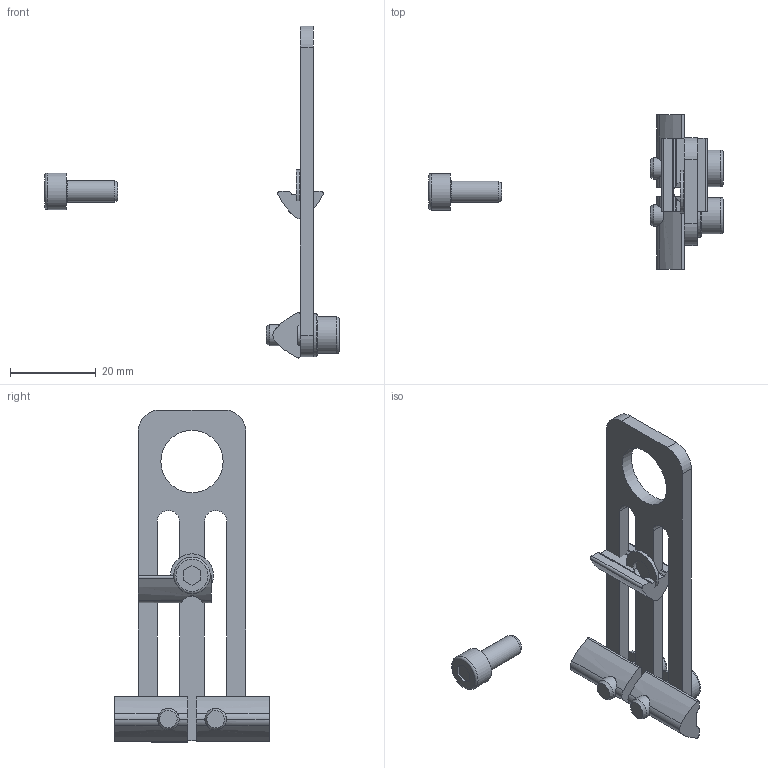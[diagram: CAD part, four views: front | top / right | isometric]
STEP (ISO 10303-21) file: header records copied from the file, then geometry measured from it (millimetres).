
FILE_DESCRIPTION( ( 'Unknown' ), '1' );
FILE_NAME( 'C:/Users/Fabrizio/Desktop/DISEGNI ACCESSORI FP SOLIDEDGE/CA.04.20.14.6.stp', 'Unknown', ( 'Unknown' ), ( 'Unknown' ), 'PSStep 13.0', 'Unknown', ' ' );
FILE_SCHEMA( ( 'AUTOMOTIVE_DESIGN { 1 0 10303 214 1 1 1 1 }' ) );
Length unit declared in the file: millimetre
Products named in the file (5): Assem1; V-tcei M  5 x 12; rondellaDIN 125 - A 5.3; CA.02.05.005; CA.04.20.14
Bounding box: 68.5 x 36 x 77.3 mm (x, y, z)
Volume: 10838.4 mm3; surface area: 11166.9 mm2
Topology: 11 solids, 11 shells, 167 faces, 420 edges, 275 vertices
Faces by surface type: plane 80, cylinder 75, cone 6, torus 6
Full cylindrical faces by diameter (mm): 5 x6, 5.3 x3, 8.5 x3, 10 x3, 14.5 x2
Entity records: 2664 total; most frequent: CARTESIAN_POINT 408, DIRECTION 330, ORIENTED_EDGE 292, EDGE_CURVE 146, AXIS2_PLACEMENT_3D 124, STYLED_ITEM 109, PRESENTATION_STYLE_ASSIGNMENT 109, COLOUR_RGB 109
